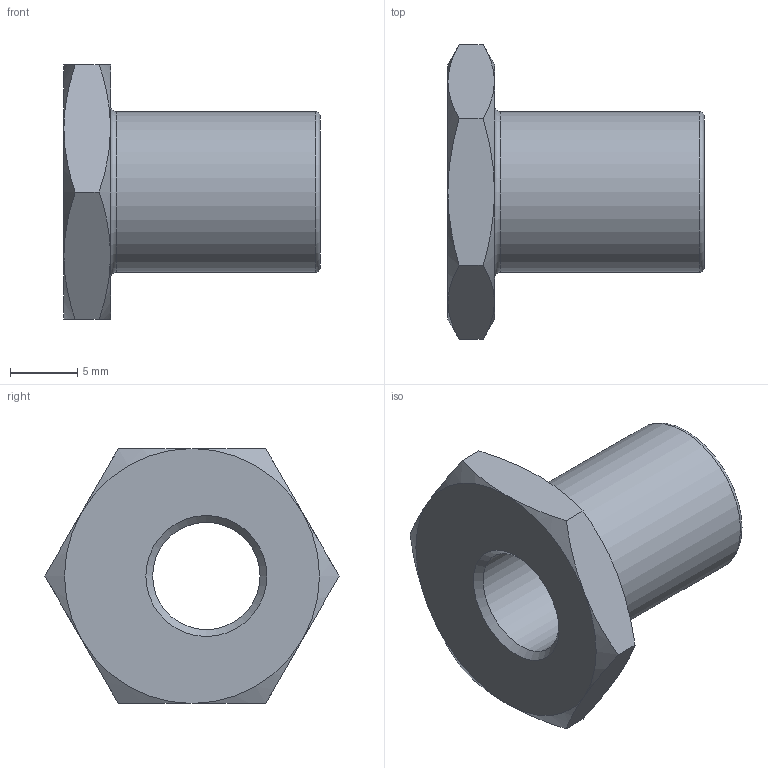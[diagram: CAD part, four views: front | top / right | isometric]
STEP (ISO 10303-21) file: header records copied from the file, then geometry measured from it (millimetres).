
FILE_DESCRIPTION( ( 'STEP AP214' ), '1' );
FILE_NAME( 'p:/temp/worker_40/temp/app_58_02019012316295506455022192d056f_000000_00_00_000000/format_0/M3PWBX.stp', '2019-01-23T15:29:55', ( '' ), ( '' ), ' ', 'PARTsolutions', ' ' );
FILE_SCHEMA( ( 'AUTOMOTIVE_DESIGN { 1 0 10303 214 1 1 1 1 }' ) );
Length unit declared in the file: inch
Products named in the file (1): _M3PWBX
Bounding box: 19.1 x 21.94 x 19 mm (x, y, z)
Volume: 1870.1 mm3; surface area: 1765.9 mm2
Topology: 1 solids, 1 shells, 27 faces, 56 edges, 32 vertices
Faces by surface type: cone 14, plane 9, torus 2, cylinder 2
Full cylindrical faces by diameter (mm): 8 x1, 11.99 x1
Entity records: 996 total; most frequent: CARTESIAN_POINT 246, DIRECTION 102, ORIENTED_EDGE 100, EDGE_CURVE 50, AXIS2_PLACEMENT_3D 48, EDGE_LOOP 36, VERTEX_POINT 32, FACE_OUTER_BOUND 31
